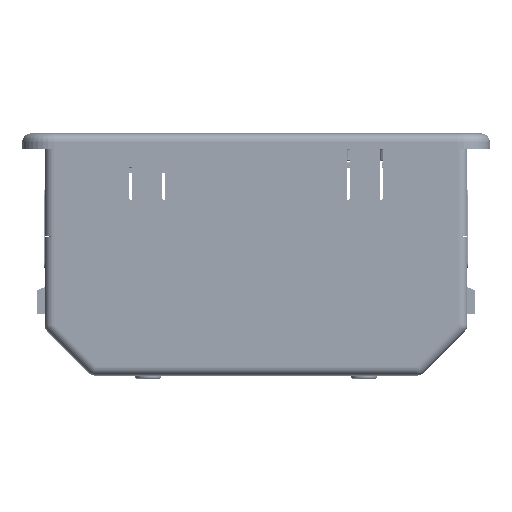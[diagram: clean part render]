
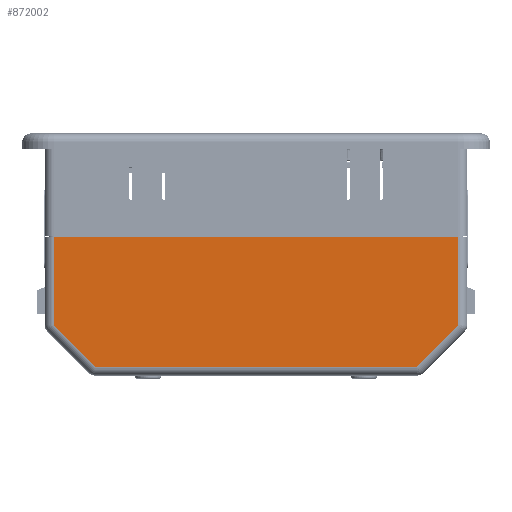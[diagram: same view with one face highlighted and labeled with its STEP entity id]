
A CAD part, left-side view. The second image highlights one B-rep face of the part: STEP entity #872002.
In plain terms, the highlighted planar face has unit normal (-1, 0, 0).
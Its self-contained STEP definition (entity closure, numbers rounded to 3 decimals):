
#16977 = VERTEX_POINT ( 'NONE', #411599 ) ;
#73619 = VERTEX_POINT ( 'NONE', #334496 ) ;
#101412 = LINE ( 'NONE', #337744, #526936 ) ;
#102509 = VERTEX_POINT ( 'NONE', #254852 ) ;
#105151 = CARTESIAN_POINT ( 'NONE',  ( -70., -53.257, -77.2 ) ) ;
#131037 = DIRECTION ( 'NONE',  ( 0., -1., 0. ) ) ;
#150046 = DIRECTION ( 'NONE',  ( 1., 0., 0. ) ) ;
#154935 = CARTESIAN_POINT ( 'NONE',  ( -70., -5.629, -124.829 ) ) ;
#158563 = DIRECTION ( 'NONE',  ( 0., 0., 1. ) ) ;
#161608 = CARTESIAN_POINT ( 'NONE',  ( -70., -54.5, -77.2 ) ) ;
#180535 = DIRECTION ( 'NONE',  ( 0., -1., 0. ) ) ;
#192840 = CARTESIAN_POINT ( 'NONE',  ( -70., -67., -63.457 ) ) ;
#198797 = FACE_OUTER_BOUND ( 'NONE', #800835, .T. ) ;
#254852 = CARTESIAN_POINT ( 'NONE',  ( -70., 67., -34.2 ) ) ;
#259089 = VECTOR ( 'NONE', #898069, 1000. ) ;
#309430 = VECTOR ( 'NONE', #786824, 1000. ) ;
#314150 = LINE ( 'NONE', #154935, #259089 ) ;
#320876 = ORIENTED_EDGE ( 'NONE', *, *, #942032, .T. ) ;
#330772 = LINE ( 'NONE', #670346, #365548 ) ;
#334496 = CARTESIAN_POINT ( 'NONE',  ( -70., -67., -34.2 ) ) ;
#337744 = CARTESIAN_POINT ( 'NONE',  ( -70., 67., -64.7 ) ) ;
#338018 = DIRECTION ( 'NONE',  ( 0., -1., 0. ) ) ;
#353139 = PLANE ( 'NONE',  #590787 ) ;
#365548 = VECTOR ( 'NONE', #158563, 1000. ) ;
#389015 = EDGE_CURVE ( 'NONE', #102509, #16977, #101412, .T. ) ;
#411599 = CARTESIAN_POINT ( 'NONE',  ( -70., 67., -63.457 ) ) ;
#415222 = LINE ( 'NONE', #704926, #559051 ) ;
#459502 = EDGE_CURVE ( 'NONE', #924632, #73619, #330772, .T. ) ;
#463556 = ORIENTED_EDGE ( 'NONE', *, *, #612417, .T. ) ;
#482656 = DIRECTION ( 'NONE',  ( 0., 0., -1. ) ) ;
#497212 = VECTOR ( 'NONE', #180535, 1000. ) ;
#507031 = CARTESIAN_POINT ( 'NONE',  ( -70., 53.257, -77.2 ) ) ;
#526936 = VECTOR ( 'NONE', #482656, 1000. ) ;
#559051 = VECTOR ( 'NONE', #338018, 1000. ) ;
#569725 = CARTESIAN_POINT ( 'NONE',  ( -70., 44.629, -85.829 ) ) ;
#590787 = AXIS2_PLACEMENT_3D ( 'NONE', #811337, #150046, #131037 ) ;
#612417 = EDGE_CURVE ( 'NONE', #884601, #791530, #914250, .T. ) ;
#670346 = CARTESIAN_POINT ( 'NONE',  ( -70., -67., -37.2 ) ) ;
#704072 = EDGE_CURVE ( 'NONE', #102509, #73619, #415222, .T. ) ;
#704926 = CARTESIAN_POINT ( 'NONE',  ( -70., 67., -34.2 ) ) ;
#705140 = ORIENTED_EDGE ( 'NONE', *, *, #389015, .T. ) ;
#745064 = EDGE_CURVE ( 'NONE', #791530, #924632, #314150, .T. ) ;
#786824 = DIRECTION ( 'NONE',  ( 0., -0.707, -0.707 ) ) ;
#791530 = VERTEX_POINT ( 'NONE', #105151 ) ;
#800835 = EDGE_LOOP ( 'NONE', ( #885930, #819707, #928849, #705140, #320876, #463556 ) ) ;
#811337 = CARTESIAN_POINT ( 'NONE',  ( -70., 39., -80.2 ) ) ;
#819707 = ORIENTED_EDGE ( 'NONE', *, *, #459502, .T. ) ;
#868682 = LINE ( 'NONE', #569725, #309430 ) ;
#872002 = ADVANCED_FACE ( 'NONE', ( #198797 ), #353139, .F. ) ;
#884601 = VERTEX_POINT ( 'NONE', #507031 ) ;
#885930 = ORIENTED_EDGE ( 'NONE', *, *, #745064, .T. ) ;
#898069 = DIRECTION ( 'NONE',  ( 0., -0.707, 0.707 ) ) ;
#914250 = LINE ( 'NONE', #161608, #497212 ) ;
#924632 = VERTEX_POINT ( 'NONE', #192840 ) ;
#928849 = ORIENTED_EDGE ( 'NONE', *, *, #704072, .F. ) ;
#942032 = EDGE_CURVE ( 'NONE', #16977, #884601, #868682, .T. ) ;
